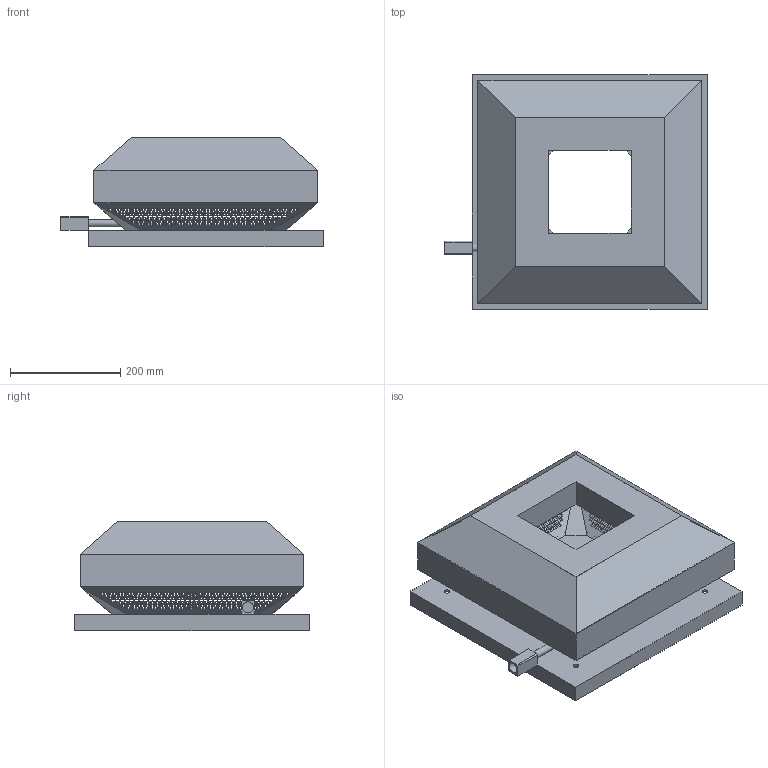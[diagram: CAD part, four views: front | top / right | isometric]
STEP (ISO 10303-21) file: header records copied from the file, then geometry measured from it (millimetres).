
FILE_DESCRIPTION(/* description */ (''),/* implementation_level */ '2;1');
FILE_NAME(/* name */ 'Z:\Output\RDD_200-4_EX-07191-002.stp',/* time_stamp */ '2020-06-25T16:45:43+02:00',/* author */ ('engineering1'),/* organization */ (''),/* preprocessor_version */ 'ST-DEVELOPER v17.2',/* originating_system */ 'Autodesk Inventor 2019',/* authorisation */ '');
FILE_SCHEMA (('AUTOMOTIVE_DESIGN { 1 0 10303 214 3 1 1 }'));
Products named in the file (1): RD-2
Bounding box: 475 x 425 x 198 mm (x, y, z)
Volume: 1463490.7 mm3; surface area: 1188876.2 mm2
Topology: 1 solids, 1 shells, 4040 faces, 12078 edges, 8038 vertices
Faces by surface type: plane 4026, cylinder 14
Full cylindrical faces by diameter (mm): 6 x6, 10 x4, 13.2 x2, 19.8 x1, 200 x1
Entity records: 138936 total; most frequent: CARTESIAN_POINT 24157, ORIENTED_EDGE 24156, DIRECTION 20206, EDGE_CURVE 12078, LINE 12032, VECTOR 12032, VERTEX_POINT 8038, EDGE_LOOP 6038
